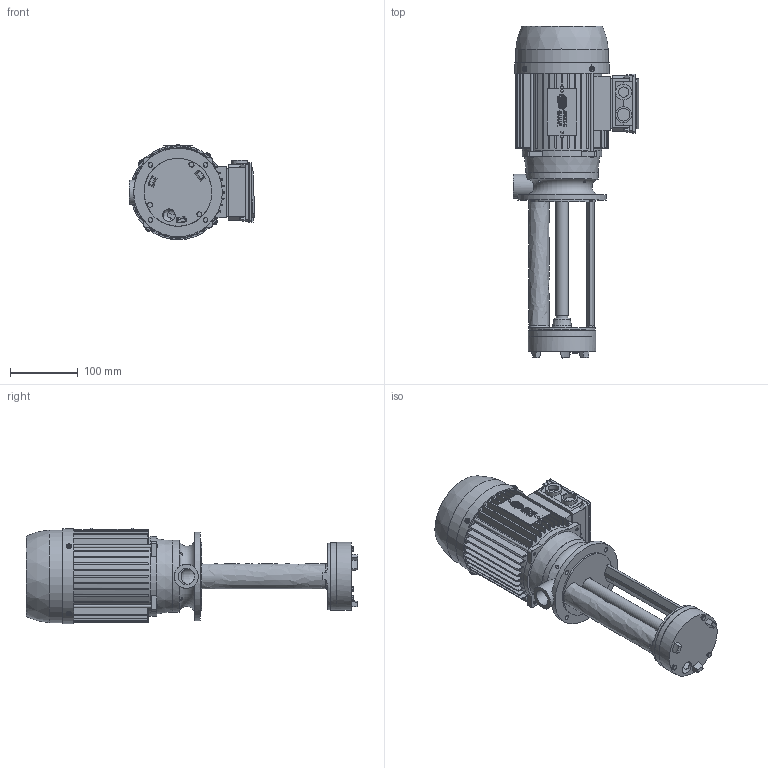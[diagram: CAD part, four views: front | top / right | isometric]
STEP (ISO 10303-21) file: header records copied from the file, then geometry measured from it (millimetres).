
FILE_DESCRIPTION(/* description */ (''),/* implementation_level */ '2;1');
FILE_NAME(/* name */ 'T:\STEP\EPC 71 B\YT71EPB++230.stp',/* time_stamp */ '2019-05-23T09:06:00+02:00',/* author */ ('cboccato'),/* organization */ (''),/* preprocessor_version */ 'ST-DEVELOPER v17.2',/* originating_system */ 'Autodesk Inventor 2019',/* authorisation */ '');
FILE_SCHEMA (('CONFIG_CONTROL_DESIGN'));
Products named in the file (1): YT71EPB++230_iLogic_Shrinkwrap
Bounding box: 185.5 x 489.6 x 141.09 mm (x, y, z)
Volume: 1365713.8 mm3; surface area: 619324.4 mm2
Topology: 14 solids, 31 shells, 2756 faces, 7807 edges, 5159 vertices
Faces by surface type: plane 1612, cylinder 709, cone 224, bspline 108, torus 92, sphere 11
Full cylindrical faces by diameter (mm): 2 x2, 2.53 x2, 3 x9, 3.5 x4, 3.621 x4, 3.9 x4, 4 x3, 4.134 x4, 4.3 x4, 4.33 x8, 4.5 x4, 4.6 x4, 5 x4, 5.5 x4, 6 x4, 6.03 x3, 7 x4, 7.2 x4, 7.75 x1, 9.6 x4, 12 x1, 15 x2, 16.6 x1, 16.8 x1, 16.99 x1, 17 x2, 17.4 x1, 17.5 x1, 18 x2, 18.5 x2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
Entity records: 102541 total; most frequent: CARTESIAN_POINT 28103, ORIENTED_EDGE 15648, DIRECTION 14190, EDGE_CURVE 7824, VERTEX_POINT 5183, AXIS2_PLACEMENT_3D 4934, LINE 4322, VECTOR 4322
